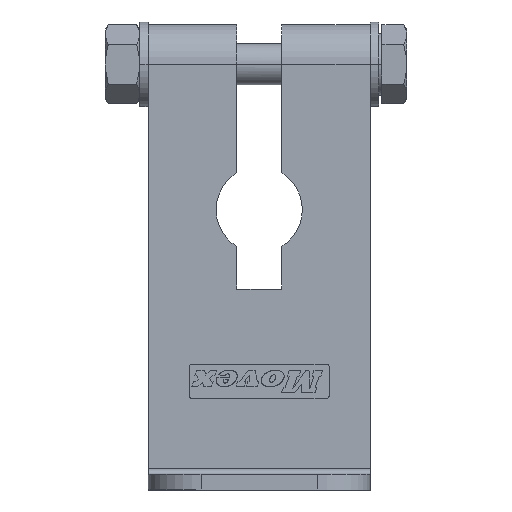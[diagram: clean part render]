
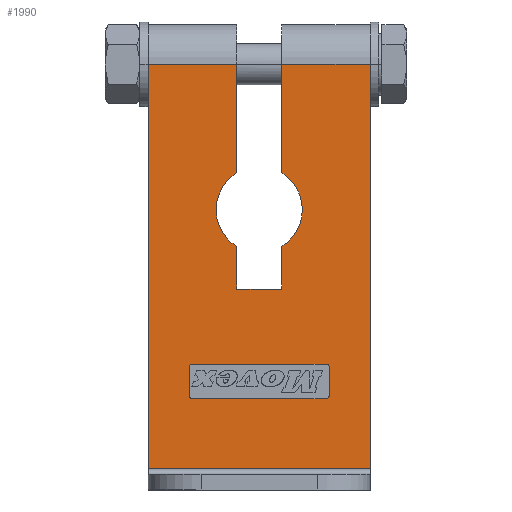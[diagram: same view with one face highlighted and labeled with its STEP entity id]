
A CAD part, left-side view. The second image highlights one B-rep face of the part: STEP entity #1990.
In plain terms, the highlighted planar face has unit normal (-1, 0, 0).
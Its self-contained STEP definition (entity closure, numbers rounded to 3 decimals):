
#336=CARTESIAN_POINT('Vertex',(-31.5,-21.,4.)) ;
#339=CARTESIAN_POINT('Line Origine',(-31.5,0.,4.)) ;
#343=CARTESIAN_POINT('Vertex',(-31.5,21.,4.)) ;
#681=CARTESIAN_POINT('Line Origine',(-31.5,21.,42.25)) ;
#685=CARTESIAN_POINT('Vertex',(-31.5,21.,80.5)) ;
#856=CARTESIAN_POINT('Vertex',(-31.5,-21.,80.5)) ;
#859=CARTESIAN_POINT('Line Origine',(-31.5,-21.,42.25)) ;
#1394=CARTESIAN_POINT('Line Origine',(-31.5,0.,80.5)) ;
#1398=CARTESIAN_POINT('Vertex',(-31.5,-4.25,80.5)) ;
#1427=CARTESIAN_POINT('Line Origine',(-31.5,0.,80.5)) ;
#1431=CARTESIAN_POINT('Vertex',(-31.5,4.25,80.5)) ;
#1635=CARTESIAN_POINT('Line Origine',(-31.5,4.25,70.227)) ;
#1639=CARTESIAN_POINT('Vertex',(-31.5,4.25,59.954)) ;
#1690=CARTESIAN_POINT('Axis2P3D Location',(-31.5,0.,53.)) ;
#1694=CARTESIAN_POINT('Vertex',(-31.5,4.25,46.046)) ;
#1728=CARTESIAN_POINT('Line Origine',(-31.5,4.25,42.023)) ;
#1732=CARTESIAN_POINT('Vertex',(-31.5,4.25,38.)) ;
#1771=CARTESIAN_POINT('Line Origine',(-31.5,0.,38.)) ;
#1775=CARTESIAN_POINT('Vertex',(-31.5,-4.25,38.)) ;
#1814=CARTESIAN_POINT('Line Origine',(-31.5,-4.25,42.023)) ;
#1818=CARTESIAN_POINT('Vertex',(-31.5,-4.25,46.046)) ;
#1857=CARTESIAN_POINT('Axis2P3D Location',(-31.5,0.,53.)) ;
#1861=CARTESIAN_POINT('Vertex',(-31.5,-4.25,59.954)) ;
#1876=CARTESIAN_POINT('Line Origine',(-31.5,-4.25,70.227)) ;
#1905=CARTESIAN_POINT('Axis2P3D Location',(-31.5,0.,4.)) ;
#1924=CARTESIAN_POINT('Axis2P3D Location',(-31.5,12.65,23.2)) ;
#1928=CARTESIAN_POINT('Vertex',(-31.5,12.65,23.8)) ;
#1930=CARTESIAN_POINT('Vertex',(-31.5,13.25,23.2)) ;
#1933=CARTESIAN_POINT('Line Origine',(-31.5,0.,23.8)) ;
#1937=CARTESIAN_POINT('Vertex',(-31.5,-12.65,23.8)) ;
#1940=CARTESIAN_POINT('Axis2P3D Location',(-31.5,-12.65,23.2)) ;
#1944=CARTESIAN_POINT('Vertex',(-31.5,-13.25,23.2)) ;
#1947=CARTESIAN_POINT('Line Origine',(-31.5,-13.25,20.55)) ;
#1951=CARTESIAN_POINT('Vertex',(-31.5,-13.25,17.9)) ;
#1954=CARTESIAN_POINT('Axis2P3D Location',(-31.5,-12.65,17.9)) ;
#1958=CARTESIAN_POINT('Vertex',(-31.5,-12.65,17.3)) ;
#1961=CARTESIAN_POINT('Line Origine',(-31.5,0.,17.3)) ;
#1965=CARTESIAN_POINT('Vertex',(-31.5,12.65,17.3)) ;
#1968=CARTESIAN_POINT('Axis2P3D Location',(-31.5,12.65,17.9)) ;
#1972=CARTESIAN_POINT('Vertex',(-31.5,13.25,17.9)) ;
#1975=CARTESIAN_POINT('Line Origine',(-31.5,13.25,20.55)) ;
#340=DIRECTION('Vector Direction',(0.,1.,0.)) ;
#682=DIRECTION('Vector Direction',(0.,0.,1.)) ;
#860=DIRECTION('Vector Direction',(0.,0.,1.)) ;
#1395=DIRECTION('Vector Direction',(0.,1.,0.)) ;
#1428=DIRECTION('Vector Direction',(0.,1.,0.)) ;
#1636=DIRECTION('Vector Direction',(0.,0.,-1.)) ;
#1691=DIRECTION('Axis2P3D Direction',(1.,0.,0.)) ;
#1729=DIRECTION('Vector Direction',(0.,0.,1.)) ;
#1772=DIRECTION('Vector Direction',(0.,1.,0.)) ;
#1815=DIRECTION('Vector Direction',(0.,0.,-1.)) ;
#1858=DIRECTION('Axis2P3D Direction',(1.,0.,0.)) ;
#1877=DIRECTION('Vector Direction',(0.,0.,-1.)) ;
#1906=DIRECTION('Axis2P3D Direction',(-1.,0.,0.)) ;
#1907=DIRECTION('Axis2P3D XDirection',(0.,0.,1.)) ;
#1925=DIRECTION('Axis2P3D Direction',(-1.,0.,0.)) ;
#1934=DIRECTION('Vector Direction',(0.,1.,0.)) ;
#1941=DIRECTION('Axis2P3D Direction',(-1.,0.,0.)) ;
#1948=DIRECTION('Vector Direction',(0.,0.,-1.)) ;
#1955=DIRECTION('Axis2P3D Direction',(-1.,0.,0.)) ;
#1962=DIRECTION('Vector Direction',(0.,1.,0.)) ;
#1969=DIRECTION('Axis2P3D Direction',(-1.,0.,0.)) ;
#1976=DIRECTION('Vector Direction',(0.,0.,1.)) ;
#1692=AXIS2_PLACEMENT_3D('Circle Axis2P3D',#1690,#1691,$) ;
#1859=AXIS2_PLACEMENT_3D('Circle Axis2P3D',#1857,#1858,$) ;
#1908=AXIS2_PLACEMENT_3D('Plane Axis2P3D',#1905,#1906,#1907) ;
#1926=AXIS2_PLACEMENT_3D('Circle Axis2P3D',#1924,#1925,$) ;
#1942=AXIS2_PLACEMENT_3D('Circle Axis2P3D',#1940,#1941,$) ;
#1956=AXIS2_PLACEMENT_3D('Circle Axis2P3D',#1954,#1955,$) ;
#1970=AXIS2_PLACEMENT_3D('Circle Axis2P3D',#1968,#1969,$) ;
#1911=ORIENTED_EDGE('',*,*,#1433,.T.) ;
#1912=ORIENTED_EDGE('',*,*,#687,.F.) ;
#1913=ORIENTED_EDGE('',*,*,#345,.F.) ;
#1914=ORIENTED_EDGE('',*,*,#863,.T.) ;
#1915=ORIENTED_EDGE('',*,*,#1400,.T.) ;
#1916=ORIENTED_EDGE('',*,*,#1880,.T.) ;
#1917=ORIENTED_EDGE('',*,*,#1863,.F.) ;
#1918=ORIENTED_EDGE('',*,*,#1820,.T.) ;
#1919=ORIENTED_EDGE('',*,*,#1777,.T.) ;
#1920=ORIENTED_EDGE('',*,*,#1734,.T.) ;
#1921=ORIENTED_EDGE('',*,*,#1696,.F.) ;
#1922=ORIENTED_EDGE('',*,*,#1641,.F.) ;
#1981=ORIENTED_EDGE('',*,*,#1932,.F.) ;
#1982=ORIENTED_EDGE('',*,*,#1939,.F.) ;
#1983=ORIENTED_EDGE('',*,*,#1946,.F.) ;
#1984=ORIENTED_EDGE('',*,*,#1953,.F.) ;
#1985=ORIENTED_EDGE('',*,*,#1960,.F.) ;
#1986=ORIENTED_EDGE('',*,*,#1967,.F.) ;
#1987=ORIENTED_EDGE('',*,*,#1974,.F.) ;
#1988=ORIENTED_EDGE('',*,*,#1979,.F.) ;
#1989=FACE_BOUND('',#1980,.T.) ;
#341=VECTOR('Line Direction',#340,1.) ;
#683=VECTOR('Line Direction',#682,1.) ;
#861=VECTOR('Line Direction',#860,1.) ;
#1396=VECTOR('Line Direction',#1395,1.) ;
#1429=VECTOR('Line Direction',#1428,1.) ;
#1637=VECTOR('Line Direction',#1636,1.) ;
#1730=VECTOR('Line Direction',#1729,1.) ;
#1773=VECTOR('Line Direction',#1772,1.) ;
#1816=VECTOR('Line Direction',#1815,1.) ;
#1878=VECTOR('Line Direction',#1877,1.) ;
#1935=VECTOR('Line Direction',#1934,1.) ;
#1949=VECTOR('Line Direction',#1948,1.) ;
#1963=VECTOR('Line Direction',#1962,1.) ;
#1977=VECTOR('Line Direction',#1976,1.) ;
#1990=ADVANCED_FACE('PartBody',(#1923,#1989),#1909,.T.) ;
#1693=CIRCLE('generated circle',#1692,8.15) ;
#1860=CIRCLE('generated circle',#1859,8.15) ;
#1927=CIRCLE('generated circle',#1926,0.6) ;
#1943=CIRCLE('generated circle',#1942,0.6) ;
#1957=CIRCLE('generated circle',#1956,0.6) ;
#1971=CIRCLE('generated circle',#1970,0.6) ;
#345=EDGE_CURVE('',#337,#344,#342,.T.) ;
#687=EDGE_CURVE('',#344,#686,#684,.T.) ;
#863=EDGE_CURVE('',#337,#857,#862,.T.) ;
#1400=EDGE_CURVE('',#857,#1399,#1397,.T.) ;
#1433=EDGE_CURVE('',#1432,#686,#1430,.T.) ;
#1641=EDGE_CURVE('',#1432,#1640,#1638,.T.) ;
#1696=EDGE_CURVE('',#1640,#1695,#1693,.F.) ;
#1734=EDGE_CURVE('',#1733,#1695,#1731,.T.) ;
#1777=EDGE_CURVE('',#1776,#1733,#1774,.T.) ;
#1820=EDGE_CURVE('',#1819,#1776,#1817,.T.) ;
#1863=EDGE_CURVE('',#1819,#1862,#1860,.F.) ;
#1880=EDGE_CURVE('',#1399,#1862,#1879,.T.) ;
#1932=EDGE_CURVE('',#1929,#1931,#1927,.T.) ;
#1939=EDGE_CURVE('',#1938,#1929,#1936,.T.) ;
#1946=EDGE_CURVE('',#1945,#1938,#1943,.T.) ;
#1953=EDGE_CURVE('',#1952,#1945,#1950,.F.) ;
#1960=EDGE_CURVE('',#1959,#1952,#1957,.T.) ;
#1967=EDGE_CURVE('',#1966,#1959,#1964,.F.) ;
#1974=EDGE_CURVE('',#1973,#1966,#1971,.T.) ;
#1979=EDGE_CURVE('',#1931,#1973,#1978,.F.) ;
#1910=EDGE_LOOP('',(#1911,#1912,#1913,#1914,#1915,#1916,#1917,#1918,#1919,#1920,#1921,#1922)) ;
#1980=EDGE_LOOP('',(#1981,#1982,#1983,#1984,#1985,#1986,#1987,#1988)) ;
#1923=FACE_OUTER_BOUND('',#1910,.T.) ;
#342=LINE('Line',#339,#341) ;
#684=LINE('Line',#681,#683) ;
#862=LINE('Line',#859,#861) ;
#1397=LINE('Line',#1394,#1396) ;
#1430=LINE('Line',#1427,#1429) ;
#1638=LINE('Line',#1635,#1637) ;
#1731=LINE('Line',#1728,#1730) ;
#1774=LINE('Line',#1771,#1773) ;
#1817=LINE('Line',#1814,#1816) ;
#1879=LINE('Line',#1876,#1878) ;
#1936=LINE('Line',#1933,#1935) ;
#1950=LINE('Line',#1947,#1949) ;
#1964=LINE('Line',#1961,#1963) ;
#1978=LINE('Line',#1975,#1977) ;
#1909=PLANE('',#1908) ;
#337=VERTEX_POINT('',#336) ;
#344=VERTEX_POINT('',#343) ;
#686=VERTEX_POINT('',#685) ;
#857=VERTEX_POINT('',#856) ;
#1399=VERTEX_POINT('',#1398) ;
#1432=VERTEX_POINT('',#1431) ;
#1640=VERTEX_POINT('',#1639) ;
#1695=VERTEX_POINT('',#1694) ;
#1733=VERTEX_POINT('',#1732) ;
#1776=VERTEX_POINT('',#1775) ;
#1819=VERTEX_POINT('',#1818) ;
#1862=VERTEX_POINT('',#1861) ;
#1929=VERTEX_POINT('',#1928) ;
#1931=VERTEX_POINT('',#1930) ;
#1938=VERTEX_POINT('',#1937) ;
#1945=VERTEX_POINT('',#1944) ;
#1952=VERTEX_POINT('',#1951) ;
#1959=VERTEX_POINT('',#1958) ;
#1966=VERTEX_POINT('',#1965) ;
#1973=VERTEX_POINT('',#1972) ;
